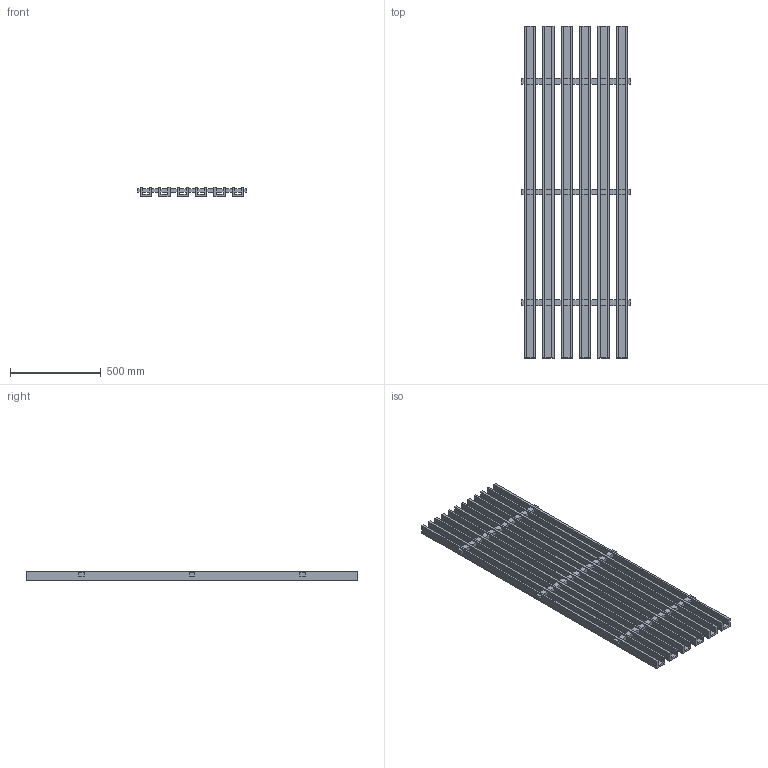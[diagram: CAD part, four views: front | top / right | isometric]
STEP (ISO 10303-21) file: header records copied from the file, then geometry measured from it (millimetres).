
FILE_DESCRIPTION(/* description */ (''),/* implementation_level */ '2;1');
FILE_NAME(/* name */ 'PET GRILLA_2.5x2_6ft',/* time_stamp */ '2024-10-15T14:21:39-05:00',/* author */ (''),/* organization */ (''),/* preprocessor_version */ 'ST-DEVELOPER v19.2',/* originating_system */ 'Rhino 8.4',/* authorisation */ '');
FILE_SCHEMA (('CONFIG_CONTROL_DESIGN'));
Length unit declared in the file: inch
Products named in the file (1): Document
Bounding box: 603.25 x 1828.8 x 50.8 mm (x, y, z)
Volume: 20285905 mm3; surface area: 3463299.5 mm2
Topology: 1 solids, 1 shells, 222 faces, 612 edges, 408 vertices
Faces by surface type: plane 222
Entity records: 6282 total; most frequent: CARTESIAN_POINT 1856, ORIENTED_EDGE 1224, EDGE_CURVE 612, B_SPLINE_CURVE_WITH_KNOTS 612, VERTEX_POINT 408, EDGE_LOOP 294, DIRECTION 226, AXIS2_PLACEMENT_3D 224
